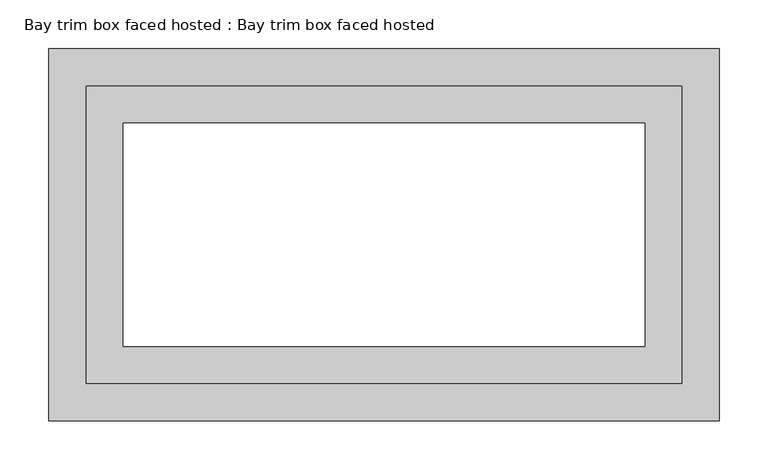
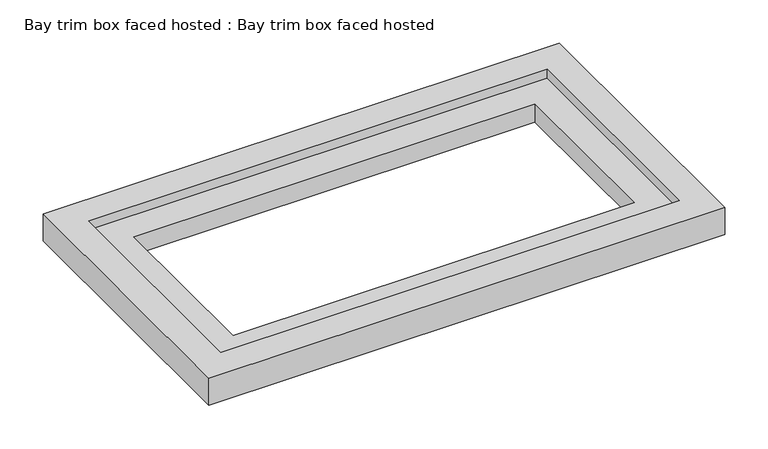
"""IFC4 building model written with IfcOpenShell, lengths in millimetres: proxy geometry, Bay trim box faced hosted : Bay trim box faced hosted."""

from ifc_helpers import new_model, si_unit, origin, place, context, project, spatial, faceted_brep, source, transform, mapped, element, save


def bay_trim_box_faced_hosted_bay_trim_box_faced_hosted_1a43beb2(model_context):
    return source(origin(), model_context, "Body", "Brep", [
        faceted_brep([(266.7, 114.3, 25.4), (266.7, 114.3, 0.0), (266.7, -114.3, 0.0), (266.7, -114.3, 25.4), (304.8, 152.4, 38.1), (304.8, 152.4, 25.4), (304.8, -152.4, 25.4), (304.8, -152.4, 38.1), (342.9, 190.5, 0.0), (342.9, 190.5, 38.1), (342.9, -190.5, 38.1), (342.9, -190.5, 0.0), (-266.7, -114.3, 0.0), (-266.7, -114.3, 25.4), (-304.8, -152.4, 25.4), (-304.8, -152.4, 38.1), (-342.9, -190.5, 38.1), (-342.9, -190.5, 0.0), (-266.7, 114.3, 0.0), (-266.7, 114.3, 25.4), (-304.8, 152.4, 25.4), (-304.8, 152.4, 38.1), (-342.9, 190.5, 38.1), (-342.9, 190.5, 0.0)], [[[0, 1, 2, 3]], [[4, 5, 6, 7]], [[8, 9, 10, 11]], [[3, 2, 12, 13]], [[7, 6, 14, 15]], [[11, 10, 16, 17]], [[13, 12, 18, 19]], [[15, 14, 20, 21]], [[17, 16, 22, 23]], [[11, 17, 23, 8], [1, 18, 12, 2]], [[19, 18, 1, 0]], [[5, 20, 14, 6], [3, 13, 19, 0]], [[21, 20, 5, 4]], [[9, 22, 16, 10], [7, 15, 21, 4]], [[23, 22, 9, 8]]]),
    ])


if __name__ == "__main__":
    model = new_model("IFC4")
    model_context = context("Model", 3, world=origin())
    ifc_project = project(units=[si_unit("LENGTHUNIT", "METRE", prefix="MILLI")], contexts=[model_context])
    site = spatial("IfcSite", under=ifc_project)
    building = spatial("IfcBuilding", under=site)
    placement = place(None, origin())
    bay_trim_box_faced_hosted_bay_trim_box_faced_hosted_shape = bay_trim_box_faced_hosted_bay_trim_box_faced_hosted_1a43beb2(model_context)
    element("IfcBuildingElementProxy", 1, Name="Bay trim box faced hosted : Bay trim box faced hosted", ObjectType="Bay trim box faced hosted : Bay trim box faced hosted", at=placement, inside=building, context=model_context, shape_type="MappedRepresentation", body=[
        mapped(bay_trim_box_faced_hosted_bay_trim_box_faced_hosted_shape, transform((0.0, 0.0, 0.0), x_axis=(1.0, 0.0, 0.0), y_axis=(0.0, 1.0, 0.0), z_axis=(0.0, 0.0, 1.0))),
    ])
    save(model, "model.ifc")
